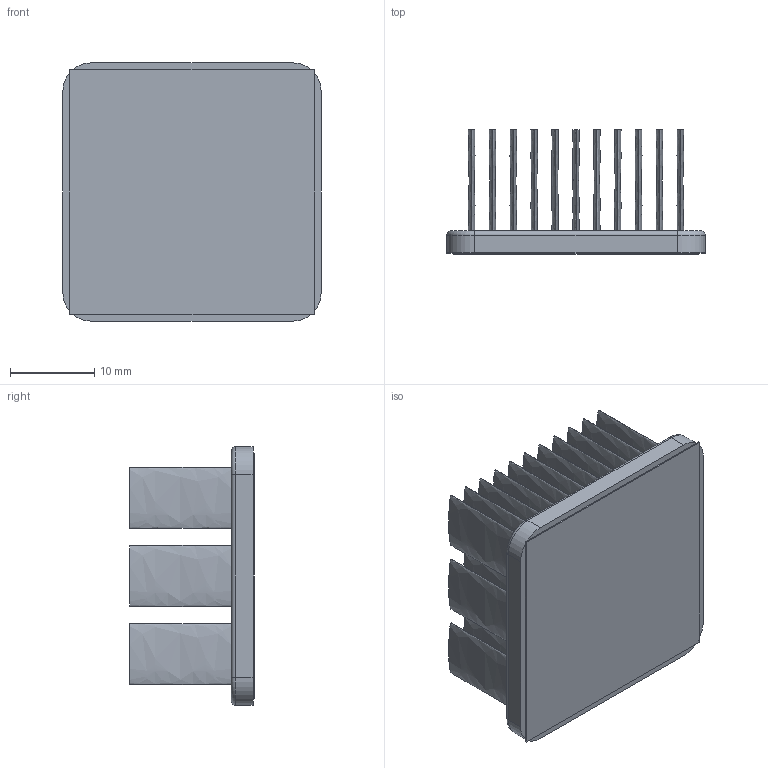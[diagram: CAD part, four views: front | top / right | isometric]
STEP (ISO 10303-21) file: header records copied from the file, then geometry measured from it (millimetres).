
FILE_DESCRIPTION (( 'STEP AP214' ), '1' );
FILE_NAME ('INM31001-15W-2.6.STEP', '2023-02-18T00:59:17', ( '' ), ( '' ), 'SwSTEP 2.0', 'SolidWorks 2020', '' );
FILE_SCHEMA (( 'AUTOMOTIVE_DESIGN' ));
Length unit declared in the file: inch
Products named in the file (1): INM31001-15W-2.6
Bounding box: 30.6 x 14.73 x 30.6 mm (x, y, z)
Volume: 4340.7 mm3; surface area: 9673.5 mm2
Topology: 2 solids, 2 shells, 123 faces, 250 edges, 164 vertices
Faces by surface type: bspline 66, plane 45, cylinder 8, torus 4
Entity records: 5008 total; most frequent: CARTESIAN_POINT 1396, ORIENTED_EDGE 500, DIRECTION 254, EDGE_CURVE 250, VERTEX_POINT 164, EDGE_LOOP 156, UNCERTAINTY_MEASURE_WITH_UNIT 127, LENGTH_MEASURE_WITH_UNIT 127
